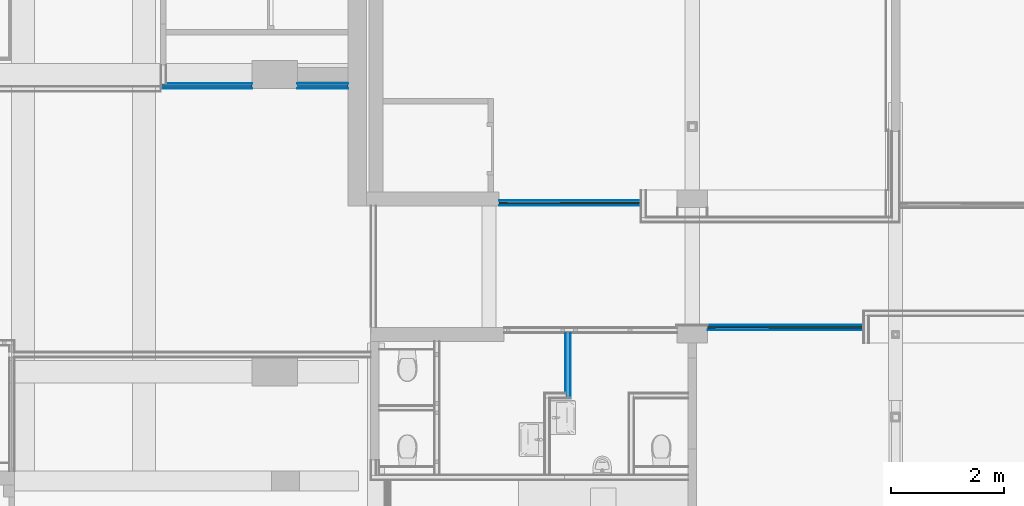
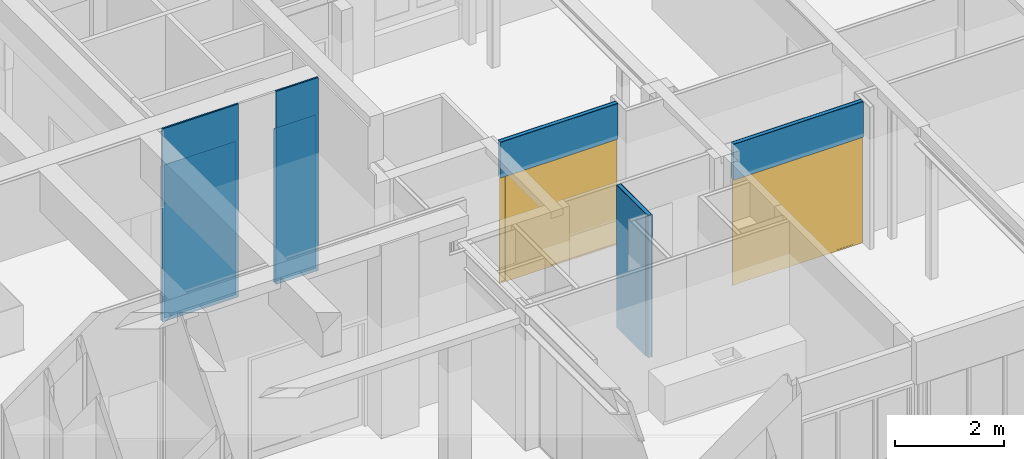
# One storey, part 83 of 117: 12 building element parts, 2 doors, 2 openings, 4 elements without a shape of their own.
"""IFC2X3 building model written with IfcOpenShell, lengths in millimetres."""

import ifcopenshell
import ifcopenshell.guid

model = None  # the IFC model being written
_history = None  # IfcOwnerHistory: only IFC2X3 demands one
_inside = {}  # id of a spatial element -> (the spatial element, [elements in it])
_under = {}  # id of a project, library or spatial element -> (it, [spatial elements below it])
_declared = {}  # id of a project -> (the project, [libraries it declares])
_typed = {}  # id of a type object -> (the type object, [elements of that type])
_made_of = {}  # id of a material, layer set ... -> (it, [elements and type objects made of it])


def new_model(schema):
    """Start an empty IFC model of exactly this schema.

    Asked for "IFC4X3", IfcOpenShell would pick the latest addendum, in which some entities
    have other attributes; the version numbers below select the first issue.
    IFC2X3 requires an IfcOwnerHistory on every rooted entity: one is made here for all.
    """
    global model, _history
    if schema == "IFC4X3":
        model = ifcopenshell.file(schema_version=(4, 3, 0, 0))
    else:
        model = ifcopenshell.file(schema=schema)
    _inside.clear()
    _under.clear()
    _declared.clear()
    _typed.clear()
    _made_of.clear()
    _history = None
    if model.schema == "IFC2X3":
        org = make("IfcOrganization", Name="unknown")
        user = make(
            "IfcPersonAndOrganization",
            ThePerson=make("IfcPerson", FamilyName="unknown"),
            TheOrganization=org,
        )
        app = make(
            "IfcApplication",
            ApplicationDeveloper=org,
            Version="unknown",
            ApplicationFullName="unknown",
            ApplicationIdentifier="unknown",
        )
        _history = make(
            "IfcOwnerHistory",
            OwningUser=user,
            OwningApplication=app,
            ChangeAction="ADDED",
            CreationDate=0,
        )
    return model


def make(cls, **values):
    """One entity of the class cls with the attributes given. An attribute that is None is left unset."""
    return model.create_entity(
        cls, **{name: value for name, value in values.items() if value is not None}
    )


def entity(cls, *values):
    """Any entity or typed value of the class cls, its attributes in the order of the schema. None: left unset."""
    e = model.create_entity(cls)
    for i, value in enumerate(values):
        if value is not None:
            e[i] = value
    return e


def rooted(cls, **values):
    """An entity with a GlobalId (a new one), such as an element, a storey or a relation."""
    return make(cls, GlobalId=ifcopenshell.guid.new(), OwnerHistory=_history, **values)


def si_unit(unit_type, name, prefix=None):
    """IfcSIUnit, for example si_unit("LENGTHUNIT", "METRE", prefix="MILLI")."""
    return make("IfcSIUnit", UnitType=unit_type, Prefix=prefix, Name=name)


def converted_unit(unit_type, name, factor, base, dimensions=None, offset=None):
    """IfcConversionBasedUnit, such as the inch: factor (a typed value) times the base unit."""
    return make(
        "IfcConversionBasedUnit"
        if offset is None
        else "IfcConversionBasedUnitWithOffset",
        ConversionOffset=offset,
        Dimensions=None
        if dimensions is None
        else entity("IfcDimensionalExponents", *dimensions),
        UnitType=unit_type,
        Name=name,
        ConversionFactor=make(
            "IfcMeasureWithUnit", ValueComponent=factor, UnitComponent=base
        ),
    )


def derived_unit(unit_type, elements):
    """IfcDerivedUnit: a product of units, each with its exponent."""
    return make(
        "IfcDerivedUnit",
        Elements=[
            make("IfcDerivedUnitElement", Unit=unit, Exponent=power)
            for unit, power in elements
        ],
        UnitType=unit_type,
    )


def money_unit(currency):
    """IfcMonetaryUnit."""
    return make("IfcMonetaryUnit", Currency=currency)


def assignment(units):
    """IfcUnitAssignment: the units of a project."""
    return None if units is None else make("IfcUnitAssignment", Units=units)


def point(xyz):
    """IfcCartesianPoint."""
    return None if xyz is None else make("IfcCartesianPoint", Coordinates=xyz)


def direction(xyz):
    """IfcDirection."""
    return None if xyz is None else make("IfcDirection", DirectionRatios=xyz)


def frame(location, z_axis=None, x_axis=None):
    """IfcAxis2Placement3D, a coordinate frame: its origin and axes. An axis left out is left unset."""
    return make(
        "IfcAxis2Placement3D",
        Location=point(location),
        Axis=direction(z_axis),
        RefDirection=direction(x_axis),
    )


def origin_with_axes():
    """The frame at (0, 0, 0) with the z axis (0, 0, 1) and the x axis (1, 0, 0) written out."""
    return frame((0.0, 0.0, 0.0), z_axis=(0.0, 0.0, 1.0), x_axis=(1.0, 0.0, 0.0))


def place(relative_to, where):
    """IfcLocalPlacement: puts the frame where relative to a parent placement (None: the world)."""
    return make(
        "IfcLocalPlacement", PlacementRelTo=relative_to, RelativePlacement=where
    )


def context(
    kind, dimensions, precision=None, world=None, true_north=None, identifier=None
):
    """IfcGeometricRepresentationContext, for example the 3D "Model" context."""
    return make(
        "IfcGeometricRepresentationContext",
        ContextIdentifier=identifier,
        ContextType=kind,
        CoordinateSpaceDimension=dimensions,
        Precision=precision,
        WorldCoordinateSystem=world,
        TrueNorth=true_north,
    )


def subcontext(parent, identifier, kind, view, scale=None):
    """IfcGeometricRepresentationSubContext, for example "Body" below "Model"."""
    return make(
        "IfcGeometricRepresentationSubContext",
        ContextIdentifier=identifier,
        ContextType=kind,
        ParentContext=parent,
        TargetScale=scale,
        TargetView=view,
    )


def project(units=None, contexts=None):
    """IfcProject with its units and contexts."""
    return rooted(
        "IfcProject",
        Name="project",
        RepresentationContexts=contexts,
        UnitsInContext=assignment(units),
    )


def spatial(cls, under=None, at=None, **own):
    """A site, building, storey or space (cls), placed at a placement, below another one or the project."""
    s = rooted(cls, ObjectPlacement=at, **own)
    if under is not None:
        _under.setdefault(under.id(), (under, []))[1].append(s)
    return s


def faces_of(points, faces, orient=None, outer=None):
    """IfcFace entities. A face is a list of loops; a loop is a list of indices into points, from 0.

    orient and outer hold one flag for each loop. By default every Orientation is true, the
    first loop of a face is its IfcFaceOuterBound and the others are IfcFaceBound.
    """
    made = []
    for i, loops in enumerate(faces):
        bounds = []
        for j, loop in enumerate(loops):
            is_outer = j == 0 if outer is None else outer[i][j]
            bounds.append(
                make(
                    "IfcFaceOuterBound" if is_outer else "IfcFaceBound",
                    Bound=make("IfcPolyLoop", Polygon=[points[k] for k in loop]),
                    Orientation=True if orient is None else orient[i][j],
                )
            )
        made.append(make("IfcFace", Bounds=bounds))
    return made


def open_shell(faces, orient=None, outer=None):
    """The faces of one IfcOpenShell. surface_model builds it on its shared points."""
    return ("IfcOpenShell", faces, orient, outer)


def faceted_brep(points, faces, orient=None, outer=None, voids=None):
    """IfcFacetedBrep: a solid bounded by flat faces; with voids (closed shells), ...WithVoids."""
    shared = [point(p) for p in points]
    hull = make("IfcClosedShell", CfsFaces=faces_of(shared, faces, orient, outer))
    if voids is None:
        return make("IfcFacetedBrep", Outer=hull)
    return make(
        "IfcFacetedBrepWithVoids",
        Outer=hull,
        Voids=[
            make(cls, CfsFaces=faces_of(shared, fs, o, b)) for cls, fs, o, b in voids
        ],
    )


def surface_model(cls, points, shells):
    """IfcFaceBasedSurfaceModel or IfcShellBasedSurfaceModel (cls): surfaces that need not close."""
    shared = [point(p) for p in points]
    made = [make(c, CfsFaces=faces_of(shared, fs, o, b)) for c, fs, o, b in shells]
    if cls == "IfcFaceBasedSurfaceModel":
        return make(cls, FbsmFaces=made)
    return make(cls, SbsmBoundary=made)


def shape(context_of_items, identifier, shape_type, items):
    """IfcShapeRepresentation: the items that make up one representation, for example the "Body"."""
    return make(
        "IfcShapeRepresentation",
        ContextOfItems=context_of_items,
        RepresentationIdentifier=identifier,
        RepresentationType=shape_type,
        Items=items,
    )


def material(Name=None, Category=None):
    """IfcMaterial."""
    return make("IfcMaterial", Name=Name, Category=Category)


def made_of(thing, what):
    """Note that an element or type object is made of a material, layer set ...; save() writes the relation."""
    if what is not None:
        _made_of.setdefault(what.id(), (what, []))[1].append(thing)
    return thing


def type_object(cls, material=None, **own):
    """A type object (cls), such as IfcWallType, which elements share."""
    return made_of(rooted(cls, **own), material)


def element(
    cls,
    number,
    at=None,
    inside=None,
    cuts=None,
    type_object=None,
    material=None,
    context=None,
    identifier="Body",
    shape_type=None,
    held_by="IfcProductDefinitionShape",
    body=None,
    shapes=None,
    **own,
):
    """One element of the class cls, such as IfcWall. Its Tag is "e" and its number.

    at: its placement. inside: the storey or other place that contains it. cuts: it is an
    opening in that element (IfcRelVoidsElement). A single representation is given by context,
    identifier, shape_type and body (its items); several are given by shapes. held_by: the class
    of the entity that holds the representations. save() writes the other relations.
    """
    e = rooted(cls, Tag="e%d" % number, ObjectPlacement=at, **own)
    if body is not None:
        shapes = [shape(context, identifier, shape_type, body)]
    if shapes is not None:
        e.Representation = make(held_by, Representations=shapes)
    if inside is not None:
        _inside.setdefault(inside.id(), (inside, []))[1].append(e)
    if cuts is not None:
        rooted(
            "IfcRelVoidsElement", RelatingBuildingElement=cuts, RelatedOpeningElement=e
        )
    if type_object is not None:
        _typed.setdefault(type_object.id(), (type_object, []))[1].append(e)
    return made_of(e, material)


def fill(opening, filler):
    """IfcRelFillsElement: the door or window that sits in an opening."""
    return rooted(
        "IfcRelFillsElement",
        RelatingOpeningElement=opening,
        RelatedBuildingElement=filler,
    )


def aggregate(whole, parts):
    """IfcRelAggregates: a whole, such as a stair, and the parts it consists of."""
    return rooted("IfcRelAggregates", RelatingObject=whole, RelatedObjects=parts)


def save(model, path):
    """Write the relations noted so far, then the file.

    IfcRelAggregates (storeys below a building ...), IfcRelContainedInSpatialStructure (elements
    in a storey), IfcRelDefinesByType, IfcRelAssociatesMaterial and IfcRelDeclares: one each for
    every whole, place, type object, material and project.
    """
    for whole, parts in _under.values():
        aggregate(whole, parts)
    for where, things in _inside.values():
        rooted(
            "IfcRelContainedInSpatialStructure",
            RelatedElements=things,
            RelatingStructure=where,
        )
    for kind, things in _typed.values():
        rooted("IfcRelDefinesByType", RelatedObjects=things, RelatingType=kind)
    for what, things in _made_of.values():
        rooted("IfcRelAssociatesMaterial", RelatedObjects=things, RelatingMaterial=what)
    for by, libraries in _declared.values():
        rooted("IfcRelDeclares", RelatingContext=by, RelatedDefinitions=libraries)
    model.write(path)


model = new_model("IFC2X3")

# Units and contexts
model_context = context("Model", 3, precision=0.01, world=origin_with_axes(), true_north=direction((0.0, 1.0)))
body_context = subcontext(model_context, "Body", "Model", "MODEL_VIEW")
ifc_project = project(units=[si_unit("LENGTHUNIT", "METRE", prefix="MILLI"), si_unit("AREAUNIT", "SQUARE_METRE"), si_unit("VOLUMEUNIT", "CUBIC_METRE"), converted_unit("PLANEANGLEUNIT", "DEGREE", entity("IfcPlaneAngleMeasure", 0.0174532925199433), si_unit("PLANEANGLEUNIT", "RADIAN"), dimensions=[0, 0, 0, 0, 0, 0, 0]), money_unit("EUR"), converted_unit("TIMEUNIT", "Year", entity("IfcTimeMeasure", 31557600.0), si_unit("TIMEUNIT", "SECOND"), dimensions=[0, 0, 1, 0, 0, 0, 0]), si_unit("MASSUNIT", "GRAM", prefix="KILO"), si_unit("THERMODYNAMICTEMPERATUREUNIT", "DEGREE_CELSIUS"), si_unit("LUMINOUSINTENSITYUNIT", "LUMEN"), si_unit("ENERGYUNIT", "JOULE", prefix="MEGA"), derived_unit("THERMALCONDUCTANCEUNIT", [(si_unit("POWERUNIT", "WATT"), 1), (si_unit("LENGTHUNIT", "METRE"), -1), (si_unit("THERMODYNAMICTEMPERATUREUNIT", "KELVIN"), -1)]), derived_unit("SPECIFICHEATCAPACITYUNIT", [(si_unit("ENERGYUNIT", "JOULE"), 1), (si_unit("MASSUNIT", "GRAM", prefix="KILO"), -1), (si_unit("THERMODYNAMICTEMPERATUREUNIT", "KELVIN"), -1)]), derived_unit("MASSDENSITYUNIT", [(si_unit("MASSUNIT", "GRAM", prefix="KILO"), 1), (si_unit("VOLUMEUNIT", "CUBIC_METRE"), -1)])], contexts=[model_context])

# Site, building, storey
site_placement = place(None, origin_with_axes())
site = spatial("IfcSite", under=ifc_project, at=site_placement, Name="Site", CompositionType="ELEMENT")
building_placement = place(site_placement, origin_with_axes())
building = spatial("IfcBuilding", under=site, at=building_placement, Name="Naam gebouw", CompositionType="ELEMENT")
storey_placement = place(building_placement, frame((0.0, 0.0, 4150.0), z_axis=(0.0, 0.0, 1.0), x_axis=(1.0, 0.0, 0.0)))
storey = spatial("IfcBuildingStorey", under=building, at=storey_placement, Name="1e verdieping N", CompositionType="ELEMENT", Elevation=4150.0)

# Door
door_style = type_object("IfcDoorStyle", Name="D1 zl2 27", ConstructionType="NOTDEFINED", OperationType="USERDEFINED", ParameterTakesPrecedence=False, Sizeable=False)
wall_3_placement = place(storey_placement, frame((36269.99999999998, 18145.9124251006, 0.0), z_axis=(0.0, 0.0, 1.0), x_axis=(1.0, 0.0, 0.0)))
opening_1_placement = place(wall_3_placement, frame((1380.000000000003, 0.0, 0.0), z_axis=(0.0, 0.0, 1.0), x_axis=(1.0, 0.0, 0.0)))
door_1_placement = place(opening_1_placement, frame((1380.00000000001, 0.0, 0.0), z_axis=(0.0, 0.0, 1.0), x_axis=(-1.0, 0.0, 0.0)))
door_1 = element("IfcDoor", 1, at=door_1_placement, inside=storey, type_object=door_style, Name="_Merk-x", ObjectType="DOOR", OverallHeight=2400.0, OverallWidth=2760.0, context=body_context, shape_type="SurfaceModel", body=[
    faceted_brep([(0.0, 10.00000000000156, 0.0), (30.00000000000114, 10.00000000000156, 0.0), (30.00000000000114, -9.99999999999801, 0.0), (0.0, -9.99999999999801, 0.0), (0.0, 10.00000000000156, 2370.0), (30.00000000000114, 10.00000000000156, 2370.0), (30.00000000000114, 10.00000000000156, 30.00000000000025), (30.00000000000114, -9.99999999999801, 30.00000000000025), (30.00000000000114, -9.99999999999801, 2370.0), (0.0, -9.99999999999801, 2370.0)], [[[0, 1, 2, 3]], [[0, 4, 5, 6, 1]], [[1, 6, 7, 2]], [[3, 2, 7, 8, 9]], [[4, 0, 3, 9]], [[5, 4, 9, 8]], [[6, 5, 8, 7]]]),
    faceted_brep([(1700.000000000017, -8.999999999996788, 0.0), (1700.000000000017, -9.000000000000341, 2370.0), (1700.000000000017, -9.99999999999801, 2370.0), (1700.000000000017, -9.99999999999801, 0.0), (1683.000000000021, -9.000000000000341, 2370.0), (1683.000000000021, -8.999999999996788, 0.0), (1683.000000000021, 10.00000000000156, 2370.0), (1670.000000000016, 10.00000000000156, 2370.0), (1670.000000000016, -9.99999999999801, 2370.0), (1670.000000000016, -9.99999999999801, 0.0), (1670.000000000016, -9.99999999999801, 30.00000000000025), (1670.000000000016, 10.00000000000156, 0.0), (1683.000000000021, 10.00000000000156, 0.0), (1670.000000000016, 10.00000000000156, 30.00000000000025)], [[[0, 1, 2, 3]], [[4, 1, 0, 5]], [[4, 6, 7, 8, 2, 1]], [[9, 3, 2, 8, 10]], [[5, 0, 3, 9, 11, 12]], [[6, 4, 5, 12]], [[6, 12, 11, 13, 7]], [[13, 10, 8, 7]], [[11, 9, 10, 13]]]),
    faceted_brep([(30.00000000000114, 10.00000000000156, 30.00000000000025), (30.00000000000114, 10.00000000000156, 0.0), (30.00000000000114, -9.99999999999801, 0.0), (30.00000000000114, -9.99999999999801, 30.00000000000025), (1670.000000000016, 10.00000000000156, 30.00000000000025), (1670.000000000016, 10.00000000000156, 0.0), (1670.000000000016, -9.99999999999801, 0.0), (1670.000000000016, -9.99999999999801, 30.00000000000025)], [[[0, 1, 2, 3]], [[0, 4, 5, 1]], [[1, 5, 6, 2]], [[3, 2, 6, 7]], [[4, 0, 3, 7]], [[5, 4, 7, 6]]]),
    faceted_brep([(2760.000000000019, 10.00000000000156, 0.0), (2760.000000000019, 10.00000000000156, 2370.0), (2760.000000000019, -9.99999999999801, 2370.0), (2760.000000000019, -9.99999999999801, 0.0), (2730.000000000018, 10.00000000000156, 0.0), (2730.000000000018, 10.00000000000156, 30.00000000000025), (2730.000000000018, 10.00000000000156, 2370.0), (2730.000000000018, -9.99999999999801, 2370.0), (2730.000000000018, -9.99999999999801, 30.00000000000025), (2730.000000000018, -9.99999999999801, 0.0)], [[[0, 1, 2, 3]], [[0, 4, 5, 6, 1]], [[1, 6, 7, 2]], [[3, 2, 7, 8, 9]], [[4, 0, 3, 9]], [[5, 4, 9, 8]], [[6, 5, 8, 7]]]),
    faceted_brep([(2617.000000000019, -9.000000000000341, 2370.0), (2600.000000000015, -9.000000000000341, 2370.0), (2600.000000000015, -9.99999999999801, 2370.0), (2630.000000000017, -9.99999999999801, 2370.0), (2630.000000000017, 10.00000000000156, 2370.0), (2617.000000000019, 10.00000000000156, 2370.0), (2617.000000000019, -9.000000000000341, 0.0), (2600.000000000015, -9.000000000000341, 0.0), (2600.000000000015, -9.99999999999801, 0.0), (2630.000000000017, -9.99999999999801, 0.0), (2630.000000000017, -9.99999999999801, 30.00000000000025), (2630.000000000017, 10.00000000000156, 30.00000000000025), (2617.000000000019, 10.00000000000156, 0.0), (2630.000000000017, 10.00000000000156, 0.0)], [[[0, 1, 2, 3, 4, 5]], [[1, 0, 6, 7]], [[1, 7, 8, 2]], [[8, 9, 10, 3, 2]], [[4, 3, 10, 11]], [[12, 5, 4, 11, 13]], [[0, 5, 12, 6]], [[6, 12, 13, 9, 8, 7]], [[11, 10, 9, 13]]]),
    faceted_brep([(2630.000000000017, 10.00000000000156, 30.00000000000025), (2630.000000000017, 10.00000000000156, 0.0), (2630.000000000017, -9.99999999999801, 0.0), (2630.000000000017, -9.99999999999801, 30.00000000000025), (2730.000000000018, 10.00000000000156, 30.00000000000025), (2730.000000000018, 10.00000000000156, 0.0), (2730.000000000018, -9.99999999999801, 0.0), (2730.000000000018, -9.99999999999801, 30.00000000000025)], [[[0, 1, 2, 3]], [[0, 4, 5, 1]], [[1, 5, 6, 2]], [[3, 2, 6, 7]], [[4, 0, 3, 7]], [[5, 4, 7, 6]]]),
    faceted_brep([(1683.000000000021, 10.00000000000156, 2387.0), (1683.000000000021, 10.00000000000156, 2370.0), (1670.000000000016, 10.00000000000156, 2370.0), (30.00000000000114, 10.00000000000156, 2370.0), (0.0, 10.00000000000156, 2370.0), (0.0, 10.00000000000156, 2400.0), (2760.000000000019, 10.00000000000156, 2400.0), (2760.000000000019, 10.00000000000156, 2370.0), (2730.000000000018, 10.00000000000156, 2370.0), (2630.000000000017, 10.00000000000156, 2370.0), (2617.000000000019, 10.00000000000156, 2370.0), (2617.000000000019, 10.00000000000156, 2387.0), (1683.000000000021, -9.000000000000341, 2387.0), (1683.000000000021, -9.000000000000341, 2370.0), (2600.000000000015, -9.000000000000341, 2370.0), (2600.000000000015, -9.99999999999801, 2370.0), (1700.000000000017, -9.99999999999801, 2370.0), (1670.000000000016, -9.99999999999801, 2370.0), (30.00000000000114, -9.99999999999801, 2370.0), (0.0, -9.99999999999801, 2370.0), (0.0, -9.99999999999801, 2400.0), (2760.000000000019, -9.99999999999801, 2400.0), (2760.000000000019, -9.99999999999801, 2370.0), (2730.000000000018, -9.99999999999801, 2370.0), (2617.000000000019, -9.000000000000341, 2370.0), (2630.000000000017, -9.99999999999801, 2370.0), (2617.000000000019, -9.000000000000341, 2387.0)], [[[0, 1, 2, 3, 4, 5, 6, 7, 8, 9, 10, 11]], [[1, 0, 12, 13]], [[13, 14, 15, 16, 17, 2, 1]], [[2, 17, 18, 3]], [[3, 18, 19, 4]], [[4, 19, 20, 5]], [[5, 20, 21, 6]], [[6, 21, 22, 7]], [[7, 22, 23, 8]], [[24, 10, 9, 8, 23, 25, 15, 14]], [[11, 10, 24, 26]], [[0, 11, 26, 12]], [[24, 14, 13, 12, 26]], [[23, 22, 21, 20, 19, 18, 17, 16, 15, 25]]]),
    faceted_brep([(2617.000000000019, 1.000000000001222, 0.0), (2617.000000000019, -9.000000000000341, 0.0), (1683.000000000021, -8.999999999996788, 0.0), (1683.000000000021, 1.000000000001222, 0.0), (2617.000000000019, 1.000000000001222, 2387.0), (2617.000000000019, -9.000000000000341, 2387.0), (1683.000000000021, -9.000000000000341, 2387.0), (1683.000000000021, 1.000000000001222, 2387.0)], [[[0, 1, 2, 3]], [[4, 5, 1, 0]], [[1, 5, 6, 2]], [[3, 2, 6, 7]], [[0, 3, 7, 4]], [[7, 6, 5, 4]]]),
    surface_model("IfcShellBasedSurfaceModel", [(30.00000000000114, 9.000000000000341, 30.00000000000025), (30.00000000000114, 9.000000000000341, 2370.0), (1670.000000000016, 9.000000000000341, 2370.0), (1670.000000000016, 9.000000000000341, 30.00000000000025)], [open_shell([[[0, 1, 2, 3]]])]),
    surface_model("IfcShellBasedSurfaceModel", [(30.00000000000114, 1.000000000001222, 30.00000000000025), (1670.000000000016, 1.000000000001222, 30.00000000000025), (1670.000000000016, 1.000000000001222, 2370.0), (30.00000000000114, 1.000000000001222, 2370.0)], [open_shell([[[0, 1, 2, 3]]])]),
    surface_model("IfcShellBasedSurfaceModel", [(2630.000000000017, 9.000000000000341, 30.00000000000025), (2630.000000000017, 9.000000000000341, 2370.0), (2730.000000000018, 9.000000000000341, 2370.0), (2730.000000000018, 9.000000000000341, 30.00000000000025)], [open_shell([[[0, 1, 2, 3]]])]),
    surface_model("IfcShellBasedSurfaceModel", [(2630.000000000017, 1.000000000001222, 30.00000000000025), (2730.000000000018, 1.000000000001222, 30.00000000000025), (2730.000000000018, 1.000000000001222, 2370.0), (2630.000000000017, 1.000000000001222, 2370.0)], [open_shell([[[0, 1, 2, 3]]])]),
])

wall_4_placement = place(storey_placement, frame((32581.11706441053, 20350.91242510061, 0.0), z_axis=(0.0, 0.0, 1.0), x_axis=(1.0, 0.0, 0.0)))
opening_2_placement = place(wall_4_placement, frame((1251.941467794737, 0.0, 0.0), z_axis=(0.0, 0.0, 1.0), x_axis=(1.0, 0.0, 0.0)))
door_2_placement = place(opening_2_placement, frame((-1251.941467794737, 0.0, 0.0), z_axis=(0.0, 0.0, 1.0), x_axis=(1.0, 0.0, 0.0)))
door_2 = element("IfcDoor", 2, at=door_2_placement, inside=storey, type_object=door_style, Name="_Merk-x", ObjectType="DOOR", OverallHeight=2400.0, OverallWidth=2503.88, context=body_context, shape_type="SurfaceModel", body=[
    faceted_brep([(2503.882935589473, 9.99999999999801, 0.0), (2503.882935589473, -10.00000000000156, 0.0), (2473.88293558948, -10.00000000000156, 0.0), (2473.88293558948, 9.99999999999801, 0.0), (2503.882935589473, 9.99999999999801, 2370.0), (2503.882935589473, -10.00000000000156, 2370.0), (2473.88293558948, -10.00000000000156, 2370.0), (2473.88293558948, -10.00000000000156, 30.00000000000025), (2473.88293558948, 9.99999999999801, 30.00000000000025), (2473.88293558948, 9.99999999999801, 2370.0)], [[[0, 1, 2, 3]], [[4, 5, 1, 0]], [[1, 5, 6, 7, 2]], [[3, 2, 7, 8]], [[0, 3, 8, 9, 4]], [[9, 6, 5, 4]], [[8, 7, 6, 9]]]),
    faceted_brep([(1059.999999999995, -9.000000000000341, 0.0), (1059.999999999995, -10.00000000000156, 0.0), (1059.999999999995, -10.00000000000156, 2370.0), (1059.999999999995, -9.000000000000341, 2370.0), (1076.999999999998, -9.000000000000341, 0.0), (1076.999999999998, 9.99999999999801, 0.0), (1089.999999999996, 9.99999999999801, 0.0), (1089.999999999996, -10.00000000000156, 0.0), (1089.999999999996, -10.00000000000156, 30.00000000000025), (1089.999999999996, -10.00000000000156, 2370.0), (1076.999999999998, -9.000000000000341, 2370.0), (1089.999999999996, 9.99999999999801, 2370.0), (1076.999999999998, 9.99999999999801, 2370.0), (1089.999999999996, 9.99999999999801, 30.00000000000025)], [[[0, 1, 2, 3]], [[4, 5, 6, 7, 1, 0]], [[7, 8, 9, 2, 1]], [[10, 3, 2, 9, 11, 12]], [[10, 4, 0, 3]], [[12, 5, 4, 10]], [[12, 11, 13, 6, 5]], [[6, 13, 8, 7]], [[13, 11, 9, 8]]]),
    faceted_brep([(2473.88293558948, 9.99999999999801, 30.00000000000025), (2473.88293558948, -10.00000000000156, 30.00000000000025), (2473.88293558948, -10.00000000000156, 0.0), (2473.88293558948, 9.99999999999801, 0.0), (1089.999999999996, 9.99999999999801, 30.00000000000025), (1089.999999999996, -10.00000000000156, 30.00000000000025), (1089.999999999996, -10.00000000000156, 0.0), (1089.999999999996, 9.99999999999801, 0.0)], [[[0, 1, 2, 3]], [[4, 5, 1, 0]], [[1, 5, 6, 2]], [[3, 2, 6, 7]], [[0, 3, 7, 4]], [[7, 6, 5, 4]]]),
    faceted_brep([(0.0, 9.99999999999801, 0.0), (0.0, -10.00000000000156, 0.0), (0.0, -10.00000000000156, 2370.0), (0.0, 9.99999999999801, 2370.0), (29.99999999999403, 9.99999999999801, 0.0), (29.99999999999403, -10.00000000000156, 0.0), (29.99999999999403, -10.00000000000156, 30.00000000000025), (29.99999999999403, -10.00000000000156, 2370.0), (29.99999999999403, 9.99999999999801, 2370.0), (29.99999999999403, 9.99999999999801, 30.00000000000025)], [[[0, 1, 2, 3]], [[4, 5, 1, 0]], [[1, 5, 6, 7, 2]], [[3, 2, 7, 8]], [[0, 3, 8, 9, 4]], [[9, 6, 5, 4]], [[8, 7, 6, 9]]]),
    faceted_brep([(142.9999999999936, -9.000000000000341, 2370.0), (142.9999999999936, 9.99999999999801, 2370.0), (129.9999999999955, 9.99999999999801, 2370.0), (129.9999999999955, -10.00000000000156, 2370.0), (159.9999999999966, -10.00000000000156, 2370.0), (159.9999999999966, -9.000000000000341, 2370.0), (142.9999999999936, -9.000000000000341, 0.0), (142.9999999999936, 9.99999999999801, 0.0), (129.9999999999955, 9.99999999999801, 0.0), (129.9999999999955, 9.99999999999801, 30.00000000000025), (129.9999999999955, -10.00000000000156, 30.00000000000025), (159.9999999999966, -10.00000000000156, 0.0), (129.9999999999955, -10.00000000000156, 0.0), (159.9999999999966, -9.000000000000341, 0.0)], [[[0, 1, 2, 3, 4, 5]], [[0, 6, 7, 1]], [[7, 8, 9, 2, 1]], [[2, 9, 10, 3]], [[11, 4, 3, 10, 12]], [[5, 4, 11, 13]], [[5, 13, 6, 0]], [[6, 13, 11, 12, 8, 7]], [[9, 8, 12, 10]]]),
    faceted_brep([(129.9999999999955, 9.99999999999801, 30.00000000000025), (129.9999999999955, -10.00000000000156, 30.00000000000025), (129.9999999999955, -10.00000000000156, 0.0), (129.9999999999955, 9.99999999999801, 0.0), (29.99999999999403, 9.99999999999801, 30.00000000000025), (29.99999999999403, -10.00000000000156, 30.00000000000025), (29.99999999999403, -10.00000000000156, 0.0), (29.99999999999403, 9.99999999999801, 0.0)], [[[0, 1, 2, 3]], [[4, 5, 1, 0]], [[1, 5, 6, 2]], [[3, 2, 6, 7]], [[0, 3, 7, 4]], [[7, 6, 5, 4]]]),
    faceted_brep([(1076.999999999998, 9.99999999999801, 2387.0), (142.9999999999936, 9.99999999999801, 2387.0), (142.9999999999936, 9.99999999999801, 2370.0), (129.9999999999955, 9.99999999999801, 2370.0), (29.99999999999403, 9.99999999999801, 2370.0), (0.0, 9.99999999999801, 2370.0), (0.0, 9.99999999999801, 2400.0), (2503.882935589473, 9.99999999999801, 2400.0), (2503.882935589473, 9.99999999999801, 2370.0), (2473.88293558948, 9.99999999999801, 2370.0), (1089.999999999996, 9.99999999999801, 2370.0), (1076.999999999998, 9.99999999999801, 2370.0), (1076.999999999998, -9.000000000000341, 2387.0), (142.9999999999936, -9.000000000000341, 2387.0), (142.9999999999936, -9.000000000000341, 2370.0), (159.9999999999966, -9.000000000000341, 2370.0), (159.9999999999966, -10.00000000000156, 2370.0), (129.9999999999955, -10.00000000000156, 2370.0), (29.99999999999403, -10.00000000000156, 2370.0), (0.0, -10.00000000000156, 2370.0), (0.0, -10.00000000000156, 2400.0), (2503.882935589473, -10.00000000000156, 2400.0), (2503.882935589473, -10.00000000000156, 2370.0), (2473.88293558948, -10.00000000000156, 2370.0), (1089.999999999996, -10.00000000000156, 2370.0), (1076.999999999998, -9.000000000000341, 2370.0), (1059.999999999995, -10.00000000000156, 2370.0)], [[[0, 1, 2, 3, 4, 5, 6, 7, 8, 9, 10, 11]], [[0, 12, 13, 1]], [[1, 13, 14, 2]], [[14, 15, 16, 17, 18, 4, 3, 2]], [[5, 4, 18, 19]], [[6, 5, 19, 20]], [[7, 6, 20, 21]], [[8, 7, 21, 22]], [[9, 8, 22, 23]], [[10, 9, 23, 24]], [[25, 11, 10, 24, 26, 16, 15]], [[11, 25, 12, 0]], [[14, 13, 12, 25, 15]], [[18, 17, 16, 26, 24, 23, 22, 21, 20, 19]]]),
    faceted_brep([(143.0000000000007, 0.9999999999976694, 0.0), (1076.999999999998, 0.9999999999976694, 0.0), (1076.999999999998, -9.000000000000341, 0.0), (143.0000000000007, -9.000000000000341, 0.0), (143.0000000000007, 0.9999999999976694, 2387.0), (1076.999999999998, 0.9999999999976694, 2387.0), (1076.999999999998, -9.000000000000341, 2387.0), (143.0000000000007, -9.000000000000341, 2387.0)], [[[0, 1, 2, 3]], [[0, 4, 5, 1]], [[1, 5, 6, 2]], [[3, 2, 6, 7]], [[4, 0, 3, 7]], [[5, 4, 7, 6]]]),
    surface_model("IfcShellBasedSurfaceModel", [(2473.88293558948, 8.999999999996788, 30.00000000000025), (1089.999999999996, 8.999999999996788, 30.00000000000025), (1089.999999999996, 8.999999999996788, 2370.0), (2473.88293558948, 8.999999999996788, 2370.0)], [open_shell([[[0, 1, 2, 3]]])]),
    surface_model("IfcShellBasedSurfaceModel", [(2473.88293558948, 0.9999999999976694, 30.00000000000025), (2473.88293558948, 0.9999999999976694, 2370.0), (1089.999999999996, 0.9999999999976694, 2370.0), (1089.999999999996, 0.9999999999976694, 30.00000000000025)], [open_shell([[[0, 1, 2, 3]]])]),
    surface_model("IfcShellBasedSurfaceModel", [(129.9999999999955, 8.999999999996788, 30.00000000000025), (29.99999999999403, 8.999999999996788, 30.00000000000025), (29.99999999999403, 8.999999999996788, 2370.0), (129.9999999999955, 8.999999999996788, 2370.0)], [open_shell([[[0, 1, 2, 3]]])]),
    surface_model("IfcShellBasedSurfaceModel", [(129.9999999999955, 0.9999999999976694, 30.00000000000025), (129.9999999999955, 0.9999999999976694, 2370.0), (29.99999999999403, 0.9999999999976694, 2370.0), (29.99999999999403, 0.9999999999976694, 30.00000000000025)], [open_shell([[[0, 1, 2, 3]]])]),
])

# Wall, building element parts
wall_type = type_object("IfcWallType", Name="Metalstud iso 100 100", PredefinedType="NOTDEFINED")
wall_1_placement = place(storey_placement, frame((33749.1870993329, 18050.91242510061, 0.0), z_axis=(0.0, 0.0, 1.0), x_axis=(0.0, -1.0, 0.0)))
wall_1 = element("IfcWall", 3, at=wall_1_placement, inside=storey, type_object=wall_type, Name="_Wand-x")
ifc_material_1 = material(Name="Isolatie - Steenwol LSW")
building_element_part_1_placement = place(wall_1_placement, origin_with_axes())
building_element_part_1 = element("IfcBuildingElementPart", 4, at=building_element_part_1_placement, material=ifc_material_1, Name="Isolatie - Steenwol LSW", context=body_context, shape_type="Brep", body=[
    faceted_brep([(0.0, 12.50000000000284, 3200.0), (0.0, 87.49999999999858, 3200.0), (0.0, 87.49999999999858, 0.0), (0.0, 12.50000000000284, 0.0), (1147.499999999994, 87.49999999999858, 3200.0), (1147.499999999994, 12.50000000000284, 3200.0), (1147.499999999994, 87.49999999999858, 0.0), (1147.499999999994, 12.50000000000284, 0.0)], [[[0, 1, 2, 3]], [[4, 1, 0, 5]], [[1, 4, 6, 2]], [[6, 7, 3, 2]], [[5, 0, 3, 7]], [[4, 5, 7, 6]]]),
])
ifc_material_2 = material(Name="Gipsplaat")
building_element_part_2_placement = place(wall_1_placement, origin_with_axes())
building_element_part_2 = element("IfcBuildingElementPart", 5, at=building_element_part_2_placement, material=ifc_material_2, Name="Gipsplaat", context=body_context, shape_type="Brep", body=[
    faceted_brep([(0.0, 87.49999999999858, 3200.0), (0.0, 100.0000000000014, 3200.0), (0.0, 100.0000000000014, 0.0), (0.0, 87.49999999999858, 0.0), (1159.999999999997, 100.0000000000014, 3200.0), (1159.999999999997, 87.49999999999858, 3200.0), (1159.999999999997, 100.0000000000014, 0.0), (1159.999999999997, 87.49999999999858, 0.0)], [[[0, 1, 2, 3]], [[4, 1, 0, 5]], [[1, 4, 6, 2]], [[6, 7, 3, 2]], [[5, 0, 3, 7]], [[4, 5, 7, 6]]]),
])
building_element_part_3_placement = place(wall_1_placement, origin_with_axes())
building_element_part_3 = element("IfcBuildingElementPart", 6, at=building_element_part_3_placement, material=ifc_material_2, Name="Gipsplaat", context=body_context, shape_type="Brep", body=[
    faceted_brep([(0.0, 0.0, 3200.0), (0.0, 12.50000000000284, 3200.0), (0.0, 12.50000000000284, 0.0), (0.0, 0.0, 0.0), (1072.499999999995, 12.50000000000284, 3200.0), (1072.499999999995, 0.0, 3200.0), (1072.499999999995, 12.50000000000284, 0.0), (1072.499999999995, 0.0, 0.0)], [[[0, 1, 2, 3]], [[4, 1, 0, 5]], [[1, 4, 6, 2]], [[6, 7, 3, 2]], [[5, 0, 3, 7]], [[4, 5, 7, 6]]]),
])
aggregate(wall_1, [building_element_part_1, building_element_part_2, building_element_part_3])

wall_2_placement = place(storey_placement, frame((29905.99978062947, 22475.91242510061, 0.0), z_axis=(0.0, 0.0, 1.0), x_axis=(-1.0, 0.0, 0.0)))
wall_2 = element("IfcWall", 7, at=wall_2_placement, inside=storey, type_object=wall_type, Name="_Wand-x")
building_element_part_4_placement = place(wall_2_placement, origin_with_axes())
building_element_part_4 = element("IfcBuildingElementPart", 8, at=building_element_part_4_placement, material=ifc_material_2, Name="Gipsplaat", context=body_context, shape_type="Brep", body=[
    faceted_brep([(1699.999780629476, 100.0000000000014, 4340.0), (1699.999780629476, 87.49999789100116, 4340.0), (3319.99978062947, 87.49999628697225, 4340.0), (3319.99978062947, 100.000005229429, 4340.0), (1699.999780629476, 87.49999999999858, 0.0), (1699.999780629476, 100.0000000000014, 0.0), (3319.99978062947, 87.49999999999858, 0.0), (3319.99978062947, 100.0000000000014, 0.0), (3319.99978062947, 100.000005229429, 3449.999999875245)], [[[0, 1, 2, 3]], [[4, 1, 0, 5]], [[1, 4, 6, 2]], [[6, 7, 8, 3, 2]], [[5, 0, 3, 8, 7]], [[4, 5, 7, 6]]]),
    faceted_brep([(899.9997806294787, 87.49999999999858, 0.0), (899.9997806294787, 87.49999868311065, 4340.0), (-0.0002193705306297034, 87.49999957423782, 4340.0), (-0.0002193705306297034, 87.49999999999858, 0.0), (899.9997806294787, 100.0000000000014, 4340.0), (899.9997806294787, 100.0000000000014, 0.0), (-0.0002193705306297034, 100.0000005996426, 4340.0), (-0.0002193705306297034, 100.0000000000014, 0.0)], [[[0, 1, 2, 3]], [[4, 1, 0, 5]], [[1, 4, 6, 2]], [[6, 7, 3, 2]], [[5, 0, 3, 7]], [[4, 5, 7, 6]]]),
])
building_element_part_5_placement = place(wall_2_placement, origin_with_axes())
building_element_part_5 = element("IfcBuildingElementPart", 9, at=building_element_part_5_placement, material=ifc_material_1, Name="Isolatie - Steenwol LSW", context=body_context, shape_type="Brep", body=[
    faceted_brep([(1699.999780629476, 55.81461670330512, 3449.999999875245), (1699.999780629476, 12.49999758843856, 3449.999999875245), (3307.49978062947, 12.49999568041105, 3449.999999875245), (3307.49978062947, 55.81461670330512, 3449.999999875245), (1699.999780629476, 12.49999999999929, 0.0), (1699.999780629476, 55.81461670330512, 4340.0), (1699.999780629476, 87.49999789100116, 4340.0), (1699.999780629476, 87.49999999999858, 0.0), (3307.49978062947, 12.49999999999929, 0.0), (3307.49978062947, 87.49999628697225, 3449.999999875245), (3307.49978062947, 87.49999999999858, 0.0), (3319.99978062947, 55.81461670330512, 3449.999999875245), (3319.99978062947, 55.81461670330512, 4340.0), (3319.99978062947, 87.49999628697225, 4340.0), (3319.99978062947, 87.4999970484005, 3449.999999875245)], [[[0, 1, 2, 3]], [[4, 1, 0, 5, 6, 7]], [[1, 4, 8, 2]], [[9, 3, 2, 8, 10]], [[5, 0, 3, 11, 12]], [[6, 5, 12, 13]], [[7, 6, 13, 14, 9, 10]], [[4, 7, 10, 8]], [[14, 11, 3, 9]], [[13, 12, 11, 14]]]),
    faceted_brep([(899.9997806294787, 12.49999999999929, 0.0), (899.9997806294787, 12.49999853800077, 3449.999999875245), (-0.0002193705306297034, 12.49999960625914, 3449.999999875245), (-0.0002193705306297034, 12.49999999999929, 0.0), (899.9997806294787, 55.81461670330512, 3449.999999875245), (899.9997806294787, 87.49999999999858, 0.0), (899.9997806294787, 87.49999868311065, 4340.0), (899.9997806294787, 55.81461670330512, 4340.0), (-0.0002193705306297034, 55.81461670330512, 3449.999999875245), (-0.0002193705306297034, 55.81461670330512, 4340.0), (-0.0002193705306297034, 87.49999957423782, 4340.0), (-0.0002193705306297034, 87.49999999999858, 0.0)], [[[0, 1, 2, 3]], [[4, 1, 0, 5, 6, 7]], [[1, 4, 8, 2]], [[2, 8, 9, 10, 11, 3]], [[5, 0, 3, 11]], [[6, 5, 11, 10]], [[7, 6, 10, 9]], [[4, 7, 9, 8]]]),
])
building_element_part_6_placement = place(wall_2_placement, origin_with_axes())
building_element_part_6 = element("IfcBuildingElementPart", 10, at=building_element_part_6_placement, material=ifc_material_2, Name="Gipsplaat", context=body_context, shape_type="Brep", body=[
    faceted_brep([(1699.999780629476, 12.4999975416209, 3449.999999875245), (1699.999780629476, 0.0, 3449.999999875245), (3232.499780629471, 0.0, 3449.999999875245), (3232.499780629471, 12.49999568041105, 3449.999999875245), (1699.999780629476, 0.0, 0.0), (1699.999780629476, 12.49999999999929, 0.0), (3232.499780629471, 0.0, 0.0), (3232.499780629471, 12.49999999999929, 0.0)], [[[0, 1, 2, 3]], [[4, 1, 0, 5]], [[1, 4, 6, 2]], [[7, 3, 2, 6]], [[5, 0, 3, 7]], [[4, 5, 7, 6]]]),
    faceted_brep([(899.9997806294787, 0.0, 0.0), (899.9997806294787, 0.0, 3449.999999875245), (-0.0002193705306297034, 0.0, 3449.999999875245), (-0.0002193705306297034, 0.0, 0.0), (899.9997806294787, 12.49999851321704, 3449.999999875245), (899.9997806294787, 12.49999999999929, 0.0), (-0.0002193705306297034, 12.49999960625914, 3449.999999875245), (-0.0002193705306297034, 12.49999999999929, 0.0)], [[[0, 1, 2, 3]], [[4, 1, 0, 5]], [[1, 4, 6, 2]], [[3, 2, 6, 7]], [[5, 0, 3, 7]], [[4, 5, 7, 6]]]),
])
aggregate(wall_2, [building_element_part_4, building_element_part_5, building_element_part_6])

# Wall, opening
wall_3 = element("IfcWall", 11, at=wall_3_placement, inside=storey, type_object=wall_type, Name="_Wand-x")
opening_1 = element("IfcOpeningElement", 12, at=opening_1_placement, cuts=wall_3, Name="_Merk-x", context=body_context, shape_type="Brep", body=[
    faceted_brep([(1380.00000000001, -10.00000000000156, 0.0), (1380.00000000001, -10.00000000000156, 2400.0), (1380.00000000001, -51.00000000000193, 2400.0), (1380.00000000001, -51.00000000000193, 0.0), (1380.00000000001, 51.00000000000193, 0.0), (1380.00000000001, 51.00000000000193, 2400.0), (-1380.00000000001, -10.00000000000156, 2400.0), (-1380.00000000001, -51.00000000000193, 2400.0), (-1380.00000000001, 51.00000000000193, 2400.0), (-1380.00000000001, -51.00000000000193, 0.0), (-1380.00000000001, -10.00000000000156, 0.0), (-1380.00000000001, 51.00000000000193, 0.0)], [[[0, 1, 2, 3]], [[1, 0, 4, 5]], [[6, 7, 2, 1, 5, 8]], [[7, 9, 3, 2]], [[0, 3, 9, 10, 11, 4]], [[5, 4, 11, 8]], [[6, 10, 9, 7]], [[10, 6, 8, 11]]]),
])

fill(opening_1, door_1)

# Building element part
building_element_part_7_placement = place(wall_3_placement, origin_with_axes())
building_element_part_7 = element("IfcBuildingElementPart", 13, at=building_element_part_7_placement, material=ifc_material_2, Name="Gipsplaat", context=body_context, shape_type="Brep", body=[
    faceted_brep([(2760.000000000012, 37.50000000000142, 2400.0), (2760.000000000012, 50.00000000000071, 2400.0), (2760.000000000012, 50.00000000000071, 3200.0), (2760.000000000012, 37.50000000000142, 3200.0), (0.0, 50.00000000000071, 2400.0), (0.0, 37.50000000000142, 2400.0), (0.0, 50.00000000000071, 3200.0), (0.0, 37.50000000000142, 3200.0)], [[[0, 1, 2, 3]], [[4, 1, 0, 5]], [[1, 4, 6, 2]], [[2, 6, 7, 3]], [[5, 0, 3, 7]], [[4, 5, 7, 6]]]),
])

building_element_part_8_placement = place(wall_3_placement, origin_with_axes())
building_element_part_8 = element("IfcBuildingElementPart", 14, at=building_element_part_8_placement, material=ifc_material_1, Name="Isolatie - Steenwol LSW", context=body_context, shape_type="Brep", body=[
    faceted_brep([(2760.000000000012, -10.00000000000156, 2400.0), (2760.000000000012, 37.50000000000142, 2400.0), (2760.000000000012, 37.50000000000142, 3200.0), (2760.000000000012, -37.49999999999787, 3200.0), (2760.000000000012, -37.49999999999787, 2400.0), (0.0, -10.00000000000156, 2400.0), (0.0, 37.50000000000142, 2400.0), (0.0, -37.50000000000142, 2400.0), (0.0, 37.50000000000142, 3200.0), (0.0, -37.50000000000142, 3200.0)], [[[0, 1, 2, 3, 4]], [[5, 6, 1, 0, 4, 7]], [[1, 6, 8, 2]], [[2, 8, 9, 3]], [[4, 3, 9, 7]], [[6, 5, 7, 9, 8]]]),
])

building_element_part_9_placement = place(wall_3_placement, origin_with_axes())
building_element_part_9 = element("IfcBuildingElementPart", 15, at=building_element_part_9_placement, material=ifc_material_2, Name="Gipsplaat", context=body_context, shape_type="Brep", body=[
    faceted_brep([(2760.000000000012, -50.00000000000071, 2400.0), (2760.000000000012, -37.49999999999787, 2400.0), (2760.000000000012, -37.49999999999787, 3200.0), (2760.000000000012, -50.00000000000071, 3200.0), (0.0, -37.50000000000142, 2400.0), (0.0, -50.00000000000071, 2400.0), (0.0, -37.50000000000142, 3200.0), (0.0, -50.00000000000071, 3200.0)], [[[0, 1, 2, 3]], [[4, 1, 0, 5]], [[1, 4, 6, 2]], [[3, 2, 6, 7]], [[5, 0, 3, 7]], [[4, 5, 7, 6]]]),
])

aggregate(wall_3, [building_element_part_7, building_element_part_8, building_element_part_9])

# Wall, opening
wall_4 = element("IfcWall", 16, at=wall_4_placement, inside=storey, type_object=wall_type, Name="_Wand-x")
opening_2 = element("IfcOpeningElement", 17, at=opening_2_placement, cuts=wall_4, Name="_Merk-x", context=body_context, shape_type="Brep", body=[
    faceted_brep([(-1251.941467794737, 9.99999999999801, 0.0), (-1251.941467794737, 9.99999999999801, 2400.0), (-1251.941467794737, 51.00000000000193, 2400.0), (-1251.941467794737, 51.00000000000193, 0.0), (-1251.941467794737, -51.00000000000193, 0.0), (-1251.941467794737, -51.00000000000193, 2400.0), (1251.941467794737, 9.99999999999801, 2400.0), (1251.941467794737, 51.00000000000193, 2400.0), (1251.941467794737, -51.00000000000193, 2400.0), (1251.941467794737, 51.00000000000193, 0.0), (1251.941467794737, 9.99999999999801, 0.0), (1251.941467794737, -51.00000000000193, 0.0)], [[[0, 1, 2, 3]], [[1, 0, 4, 5]], [[6, 7, 2, 1, 5, 8]], [[7, 9, 3, 2]], [[0, 3, 9, 10, 11, 4]], [[5, 4, 11, 8]], [[6, 10, 9, 7]], [[10, 6, 8, 11]]]),
])

fill(opening_2, door_2)

# Building element part
building_element_part_10_placement = place(wall_4_placement, origin_with_axes())
building_element_part_10 = element("IfcBuildingElementPart", 18, at=building_element_part_10_placement, material=ifc_material_2, Name="Gipsplaat", context=body_context, shape_type="Brep", body=[
    faceted_brep([(2503.882935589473, 37.50000000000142, 2400.0), (2503.882935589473, 50.00000000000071, 2400.0), (2503.88293558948, 50.00000000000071, 3200.0), (2503.88293558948, 37.50000000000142, 3200.0), (0.0, 50.00000000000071, 2400.0), (0.0, 37.50000000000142, 2400.0), (0.0, 50.00000000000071, 3200.0), (0.0, 37.50000000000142, 3200.0)], [[[0, 1, 2, 3]], [[4, 1, 0, 5]], [[1, 4, 6, 2]], [[2, 6, 7, 3]], [[5, 0, 3, 7]], [[4, 5, 7, 6]]]),
])

building_element_part_11_placement = place(wall_4_placement, origin_with_axes())
building_element_part_11 = element("IfcBuildingElementPart", 19, at=building_element_part_11_placement, material=ifc_material_1, Name="Isolatie - Steenwol LSW", context=body_context, shape_type="Brep", body=[
    faceted_brep([(2503.882935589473, -37.50000000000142, 2400.0), (2503.882935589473, 9.99999999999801, 2400.0), (2503.882935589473, 37.50000000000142, 2400.0), (2503.88293558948, 37.50000000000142, 3200.0), (2503.88293558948, -37.50000000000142, 3200.0), (0.0, -37.50000000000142, 2400.0), (0.0, 9.99999999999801, 2400.0), (0.0, 37.50000000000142, 2400.0), (0.0, 37.50000000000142, 3200.0), (0.0, -37.50000000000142, 3200.0)], [[[0, 1, 2, 3, 4]], [[1, 0, 5, 6, 7, 2]], [[7, 8, 3, 2]], [[8, 9, 4, 3]], [[5, 0, 4, 9]], [[6, 5, 9, 8, 7]]]),
])

building_element_part_12_placement = place(wall_4_placement, origin_with_axes())
building_element_part_12 = element("IfcBuildingElementPart", 20, at=building_element_part_12_placement, material=ifc_material_2, Name="Gipsplaat", context=body_context, shape_type="Brep", body=[
    faceted_brep([(2503.882935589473, -50.00000000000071, 2400.0), (2503.882935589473, -37.50000000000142, 2400.0), (2503.88293558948, -37.50000000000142, 3200.0), (2503.88293558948, -50.00000000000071, 3200.0), (0.0, -37.50000000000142, 2400.0), (0.0, -50.00000000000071, 2400.0), (0.0, -37.50000000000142, 3200.0), (0.0, -50.00000000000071, 3200.0)], [[[0, 1, 2, 3]], [[4, 1, 0, 5]], [[1, 4, 6, 2]], [[2, 6, 7, 3]], [[5, 0, 3, 7]], [[4, 5, 7, 6]]]),
])

aggregate(wall_4, [building_element_part_10, building_element_part_11, building_element_part_12])

save(model, "model.ifc")
